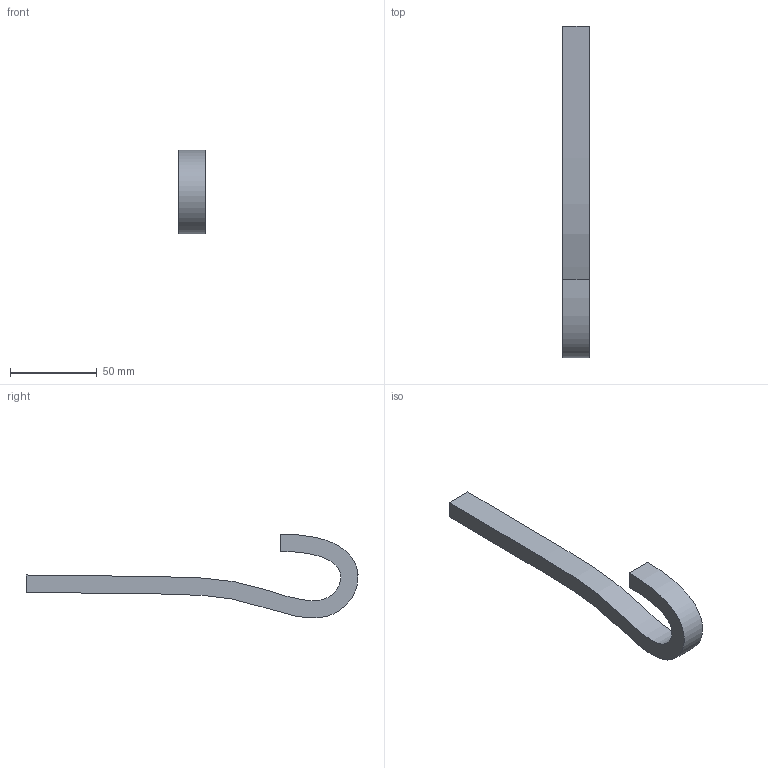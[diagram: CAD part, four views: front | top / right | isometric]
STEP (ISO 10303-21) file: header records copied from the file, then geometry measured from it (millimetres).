
FILE_DESCRIPTION(/* description */ (''),/* implementation_level */ '2;1');
FILE_NAME(/* name */ 'CADENA~1',/* time_stamp */ '2019-04-01T21:29:23-03:00',/* author */ (''),/* organization */ (''),/* preprocessor_version */ 'ST-DEVELOPER v16.5',/* originating_system */ '',/* authorisation */ '');
FILE_SCHEMA (('AUTOMOTIVE_DESIGN'));
Length unit declared in the file: millimetre
Products named in the file (1): Document
Bounding box: 15 x 191.14 x 48.3 mm (x, y, z)
Surface area: 12344.6 mm2 (no closed solid volume)
Topology: 0 solids, 1 shells, 4 faces, 12 edges, 8 vertices
Faces by surface type: bspline 4
Entity records: 727 total; most frequent: CARTESIAN_POINT 638, ORIENTED_EDGE 16, EDGE_CURVE 12, B_SPLINE_CURVE_WITH_KNOTS 12, VERTEX_POINT 8, ADVANCED_FACE 4, FACE_OUTER_BOUND 4, EDGE_LOOP 4
